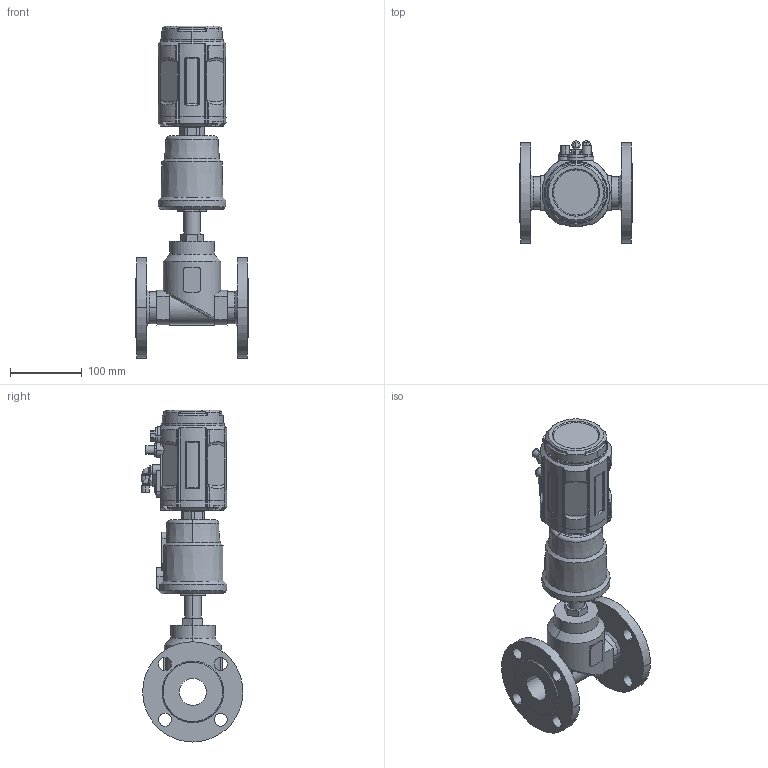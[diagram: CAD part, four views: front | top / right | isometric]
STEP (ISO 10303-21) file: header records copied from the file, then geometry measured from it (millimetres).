
FILE_DESCRIPTION((''),'2;1');
FILE_NAME('PV_F_EPP_P_2_ASM','2025-03-06T',('USER'),(''),'PRO/ENGINEER BY PARAMETRIC TECHNOLOGY CORPORATION, 2011220','PRO/ENGINEER BY PARAMETRIC TECHNOLOGY CORPORATION, 2011220','');
FILE_SCHEMA(('CONFIG_CONTROL_DESIGN'));
Length unit declared in the file: millimetre
Products named in the file (12): KLAPAN; PNEVMOPRIVOD; KOLCO_52_GOST13943; POZICIONER_VERX; POZICIONER_NIZ; SHLYAPKA_VINT; DET; DET_2; SHLYAPKA_VINT_2; DET_3; SB_POZICIONER_ASM; PV_F_EPP_P_2_ASM
Assembly tree (18 placements, depth 3):
  PV_F_EPP_P_2_ASM
    KLAPAN
    PNEVMOPRIVOD
    KOLCO_52_GOST13943
    SB_POZICIONER_ASM
      POZICIONER_VERX
      POZICIONER_NIZ
      SHLYAPKA_VINT  x4
      DET
      DET_2
      SHLYAPKA_VINT_2  x4
      DET_3  x2
Bounding box: 157 x 142.25 x 463.5 mm (x, y, z)
Volume: 2395691.1 mm3; surface area: 267896.6 mm2
Topology: 17 solids, 22 shells, 823 faces, 2072 edges, 1354 vertices
Faces by surface type: plane 396, cylinder 329, cone 50, torus 24, bspline 12, sphere 12
Entity records: 22236 total; most frequent: CARTESIAN_POINT 5415, DIRECTION 3529, ORIENTED_EDGE 3398, EDGE_CURVE 1709, AXIS2_PLACEMENT_3D 1333, VERTEX_POINT 1119, VECTOR 863, LINE 863
